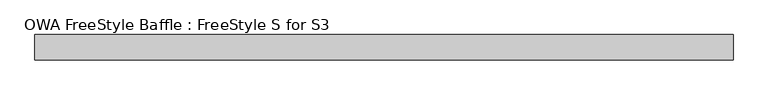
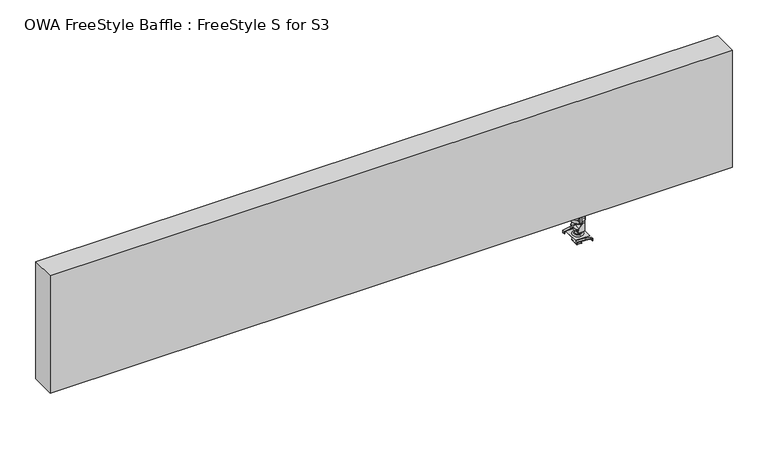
"""IFC4 building model written with IfcOpenShell, lengths in millimetres: proxy geometry, OWA FreeStyle Baffle : FreeStyle S for S3."""

from ifc_helpers import new_model, si_unit, point, frame, frame_2d, origin, place, context, project, spatial, polyline, circle_curve, trimmed, segment, composite_curve, outline, extrude, source, transform, mapped, element, save
from ifc_brep_helpers import plane_surface, cylinder_surface, revolved_surface, advanced_brep


def owa_freestyle_baffle_freestyle_s_for_s3_476cd958(model_context):
    return source(origin(), model_context, "Body", "SolidModel", [
        advanced_brep(
        [(-121.0, 8.4415003, 1.5898642), (-121.0, -8.4415003, 1.5898642), (-121.0, 0.0, 1.5898642), (-121.0, 6.3209107, 2.7955065), (-121.0, -6.3209107, 2.7955065), (-121.0, 4.2468376, 2.7955065), (-121.0, -4.2468376, 2.7955065), (-121.0, 4.2468376, 7.2398642), (-121.0, -4.2468376, 7.2398642), (-121.0, 5.0073658, 8.5775481), (-121.0, -5.0073658, 8.5775481), (-121.0, 5.0073658, 9.7898642), (-121.0, -5.0073658, 9.7898642), (-121.0, 6.1718376, 12.0898642), (-121.0, -6.1718376, 12.0898642), (-121.0, -6.1718376, 10.5898642), (-116.231961, -3.9188497, 10.5898642), (-116.231961, -3.9188497, 9.7898642), (-116.231961, 3.9188497, 9.7898642), (-116.231961, 3.9188497, 10.5898642), (-121.0, 6.1718376, 10.5898642), (-125.9436106, 3.6949009, 10.5898642), (-125.9436106, 3.6949009, 9.7898642), (-125.9436106, -3.6949009, 9.7898642), (-125.9436106, -3.6949009, 10.5898642), (-121.0, 0.0, 12.0898642), (-115.5, -10.0577889, 28.4358156), (-118.4062575, -10.0577889, 33.2858156), (-123.5, -10.0577889, 33.2858156), (-123.5, -10.0577889, 27.4015303), (-123.5, -10.0577889, 31.007432), (-118.5, -10.0577889, 31.007432), (-118.5, -10.0577889, 23.6176887), (-119.22243, -10.0577889, 21.8597795), (-123.4531897, -10.0577889, 17.5817021), (-126.4322178, -10.0577889, 13.1149322), (-125.9436106, -10.0577889, 10.5898642), (-125.9436106, -10.0577889, 9.7898642), (-116.231961, -10.0577889, 9.7898642), (-116.231961, -10.0577889, 10.5898642), (-115.5, -10.0577889, 13.1149322), (-115.5, -9.2577889, 28.4358156), (-115.5, -9.2577889, 13.1149322), (-116.231961, -9.2577889, 10.5898642), (-125.9436106, -9.2577889, 10.5898642), (-126.4322178, -9.2577889, 13.1149322), (-123.4531897, -9.2577889, 17.5817021), (-119.22243, -9.2577889, 21.8597795), (-118.5, -9.2577889, 23.6176887), (-118.5, -9.2577889, 31.007432), (-123.5, -9.2577889, 31.007432), (-123.5, -9.2577889, 27.4015303), (-123.5, -9.2577889, 33.2858156), (-118.4062575, -9.2577889, 33.2858156), (-116.231961, 9.2577889, 10.5898642), (-125.9436106, 9.2577889, 10.5898642), (-125.9436106, 10.0577889, 9.7898642), (-116.231961, 10.0577889, 9.7898642), (-125.9436106, 10.0577889, 10.5898642), (-126.4322178, 10.0577889, 13.1149322), (-123.4531897, 10.0577889, 17.5817021), (-119.22243, 10.0577889, 21.8597795), (-118.5, 10.0577889, 23.6176887), (-118.5, 10.0577889, 31.007432), (-123.5, 10.0577889, 31.007432), (-123.5, 10.0577889, 27.4015303), (-123.5, 10.0577889, 33.2858156), (-118.4062575, 10.0577889, 33.2858156), (-115.5, 10.0577889, 28.4358156), (-115.5, 10.0577889, 13.1149322), (-116.231961, 10.0577889, 10.5898642), (-115.5, 9.2577889, 28.4358156), (-118.4062575, 9.2577889, 33.2858156), (-123.5, 9.2577889, 33.2858156), (-123.5, 9.2577889, 27.4015303), (-123.5, 9.2577889, 31.007432), (-118.5, 9.2577889, 31.007432), (-118.5, 9.2577889, 23.6176887), (-119.22243, 9.2577889, 21.8597795), (-123.4531897, 9.2577889, 17.5817021), (-126.4322178, 9.2577889, 13.1149322), (-115.5, 9.2577889, 13.1149322)],
        [
            (0, 1, circle_curve(frame((-121.0, 0.0, 1.5898642), z_axis=(0.0, 0.0, -1.0), x_axis=(0.0, -1.0, 0.0)), 8.4415003)),
            (1, 2),
            (2, 0),
            (1, 0, circle_curve(frame((-121.0, 0.0, 1.5898642), z_axis=(0.0, 0.0, -1.0), x_axis=(0.0, -1.0, 0.0)), 8.4415003)),
            (0, 3),
            (3, 4, circle_curve(frame((-121.0, 0.0, 2.7955065), z_axis=(0.0, 0.0, -1.0), x_axis=(0.0, -1.0, 0.0)), 6.3209107)),
            (4, 1),
            (4, 3, circle_curve(frame((-121.0, 0.0, 2.7955065), z_axis=(0.0, 0.0, -1.0), x_axis=(0.0, -1.0, 0.0)), 6.3209107)),
            (3, 5),
            (5, 6, circle_curve(frame((-121.0, 0.0, 2.7955065), z_axis=(0.0, 0.0, -1.0), x_axis=(0.0, -1.0, 0.0)), 4.2468376)),
            (6, 4),
            (6, 5, circle_curve(frame((-121.0, 0.0, 2.7955065), z_axis=(0.0, 0.0, -1.0), x_axis=(0.0, -1.0, 0.0)), 4.2468376)),
            (5, 7),
            (7, 8, circle_curve(frame((-121.0, 0.0, 7.2398642), z_axis=(0.0, 0.0, -1.0), x_axis=(0.0, -1.0, 0.0)), 4.2468376)),
            (8, 6),
            (8, 7, circle_curve(frame((-121.0, 0.0, 7.2398642), z_axis=(0.0, 0.0, -1.0), x_axis=(0.0, -1.0, 0.0)), 4.2468376)),
            (7, 9),
            (9, 10, circle_curve(frame((-121.0, 0.0, 8.5775481), z_axis=(0.0, 0.0, -1.0), x_axis=(0.0, -1.0, 0.0)), 5.0073658)),
            (10, 8),
            (10, 9, circle_curve(frame((-121.0, 0.0, 8.5775481), z_axis=(0.0, 0.0, -1.0), x_axis=(0.0, -1.0, 0.0)), 5.0073658)),
            (9, 11),
            (11, 12, circle_curve(frame((-121.0, 0.0, 9.7898642), z_axis=(0.0, 0.0, -1.0), x_axis=(0.0, -1.0, 0.0)), 5.0073658)),
            (12, 10),
            (12, 11, circle_curve(frame((-121.0, 0.0, 9.7898642), z_axis=(0.0, 0.0, -1.0), x_axis=(0.0, -1.0, 0.0)), 5.0073658)),
            (13, 14, circle_curve(frame((-121.0, 0.0, 12.0898642), z_axis=(0.0, 0.0, -1.0), x_axis=(0.0, -1.0, 0.0)), 6.1718376)),
            (14, 15),
            (15, 16, circle_curve(frame((-121.0, 0.0, 10.5898642), z_axis=(0.0, 0.0, 1.0), x_axis=(0.0, -1.0, 0.0)), 6.1718376)),
            (16, 17),
            (17, 18, circle_curve(frame((-121.0, 0.0, 9.7898642), z_axis=(0.0, 0.0, 1.0), x_axis=(0.0, -1.0, 0.0)), 6.1718376)),
            (18, 19),
            (19, 20, circle_curve(frame((-121.0, 0.0, 10.5898642), z_axis=(0.0, 0.0, 1.0), x_axis=(0.0, -1.0, 0.0)), 6.1718376)),
            (20, 13),
            (14, 13, circle_curve(frame((-121.0, 0.0, 12.0898642), z_axis=(0.0, 0.0, -1.0), x_axis=(0.0, -1.0, 0.0)), 6.1718376)),
            (20, 21, circle_curve(frame((-121.0, 0.0, 10.5898642), z_axis=(0.0, 0.0, 1.0), x_axis=(0.0, -1.0, 0.0)), 6.1718376)),
            (21, 22),
            (22, 23, circle_curve(frame((-121.0, 0.0, 9.7898642), z_axis=(0.0, 0.0, 1.0), x_axis=(0.0, -1.0, 0.0)), 6.1718376)),
            (23, 24),
            (24, 15, circle_curve(frame((-121.0, 0.0, 10.5898642), z_axis=(0.0, 0.0, 1.0), x_axis=(0.0, -1.0, 0.0)), 6.1718376)),
            (13, 25),
            (25, 14),
            (26, 27, circle_curve(frame((-121.0, -10.0577889, 28.4358156), z_axis=(0.0, -1.0, 0.0), x_axis=(0.0, 0.0, 1.0)), 5.5)),
            (27, 28),
            (28, 29, circle_curve(frame((-122.4794267, -10.0577889, 30.343673), z_axis=(0.0, -1.0, 0.0), x_axis=(0.0, 0.0, 1.0)), 3.1141248)),
            (29, 30),
            (30, 31),
            (31, 32),
            (32, 33, circle_curve(frame((-121.0, -10.0577889, 23.6176887), z_axis=(0.0, 1.0, 0.0), x_axis=(0.0, 0.0, 1.0)), 2.5)),
            (33, 34),
            (34, 35, circle_curve(frame((-113.4323663, -10.0577889, 7.6717141), z_axis=(0.0, -1.0, 0.0), x_axis=(0.0, 0.0, 1.0)), 14.0934298)),
            (35, 36, circle_curve(frame((-124.2927664, -10.0577889, 12.2191142), z_axis=(0.0, -1.0, 0.0), x_axis=(0.0, 0.0, 1.0)), 2.3194271)),
            (36, 37),
            (37, 38),
            (38, 39),
            (39, 40, circle_curve(frame((-120.221382, -10.0577889, 13.1149322), z_axis=(0.0, -1.0, 0.0), x_axis=(0.0, 0.0, 1.0)), 4.721382)),
            (40, 26),
            (41, 42),
            (42, 43, circle_curve(frame((-120.221382, -9.2577889, 13.1149322), z_axis=(0.0, 1.0, 0.0), x_axis=(0.0, 0.0, 1.0)), 4.721382)),
            (43, 44),
            (44, 45, circle_curve(frame((-124.2927664, -9.2577889, 12.2191142), z_axis=(0.0, 1.0, 0.0), x_axis=(0.0, 0.0, 1.0)), 2.3194271)),
            (45, 46, circle_curve(frame((-113.4323663, -9.2577889, 7.6717141), z_axis=(0.0, 1.0, 0.0), x_axis=(0.0, 0.0, 1.0)), 14.0934298)),
            (46, 47),
            (47, 48, circle_curve(frame((-121.0, -9.2577889, 23.6176887), z_axis=(0.0, -1.0, 0.0), x_axis=(0.0, 0.0, 1.0)), 2.5)),
            (48, 49),
            (49, 50),
            (50, 51),
            (51, 52, circle_curve(frame((-122.4794267, -9.2577889, 30.343673), z_axis=(0.0, 1.0, 0.0), x_axis=(0.0, 0.0, 1.0)), 3.1141248)),
            (52, 53),
            (53, 41, circle_curve(frame((-121.0, -9.2577889, 28.4358156), z_axis=(0.0, 1.0, 0.0), x_axis=(0.0, 0.0, 1.0)), 5.5)),
            (26, 41),
            (53, 27),
            (52, 28),
            (51, 29),
            (50, 30),
            (49, 31),
            (33, 47),
            (46, 34),
            (45, 35),
            (44, 36),
            (39, 43),
            (42, 40),
            (32, 48),
            (43, 16),
            (24, 44),
            (54, 55),
            (55, 21),
            (19, 54),
            (56, 57),
            (57, 18),
            (17, 38),
            (37, 23),
            (22, 56),
            (58, 56),
            (55, 58),
            (58, 59, circle_curve(frame((-124.2927664, 10.0577889, 12.2191142), z_axis=(0.0, 1.0, 0.0), x_axis=(0.0, 0.0, 1.0)), 2.3194271)),
            (59, 60, circle_curve(frame((-113.4323663, 10.0577889, 7.6717141), z_axis=(0.0, 1.0, 0.0), x_axis=(0.0, 0.0, 1.0)), 14.0934298)),
            (60, 61),
            (61, 62, circle_curve(frame((-121.0, 10.0577889, 23.6176887), z_axis=(0.0, -1.0, 0.0), x_axis=(0.0, 0.0, 1.0)), 2.5)),
            (62, 63),
            (63, 64),
            (64, 65),
            (65, 66, circle_curve(frame((-122.4794267, 10.0577889, 30.343673), z_axis=(0.0, 1.0, 0.0), x_axis=(0.0, 0.0, 1.0)), 3.1141248)),
            (66, 67),
            (67, 68, circle_curve(frame((-121.0, 10.0577889, 28.4358156), z_axis=(0.0, 1.0, 0.0), x_axis=(0.0, 0.0, 1.0)), 5.5)),
            (68, 69),
            (69, 70, circle_curve(frame((-120.221382, 10.0577889, 13.1149322), z_axis=(0.0, 1.0, 0.0), x_axis=(0.0, 0.0, 1.0)), 4.721382)),
            (70, 57),
            (70, 54),
            (71, 72, circle_curve(frame((-121.0, 9.2577889, 28.4358156), z_axis=(0.0, -1.0, 0.0), x_axis=(0.0, 0.0, 1.0)), 5.5)),
            (72, 73),
            (73, 74, circle_curve(frame((-122.4794267, 9.2577889, 30.343673), z_axis=(0.0, -1.0, 0.0), x_axis=(0.0, 0.0, 1.0)), 3.1141248)),
            (74, 75),
            (75, 76),
            (76, 77),
            (77, 78, circle_curve(frame((-121.0, 9.2577889, 23.6176887), z_axis=(0.0, 1.0, 0.0), x_axis=(0.0, 0.0, 1.0)), 2.5)),
            (78, 79),
            (79, 80, circle_curve(frame((-113.4323663, 9.2577889, 7.6717141), z_axis=(0.0, -1.0, 0.0), x_axis=(0.0, 0.0, 1.0)), 14.0934298)),
            (80, 55, circle_curve(frame((-124.2927664, 9.2577889, 12.2191142), z_axis=(0.0, -1.0, 0.0), x_axis=(0.0, 0.0, 1.0)), 2.3194271)),
            (54, 81, circle_curve(frame((-120.221382, 9.2577889, 13.1149322), z_axis=(0.0, -1.0, 0.0), x_axis=(0.0, 0.0, 1.0)), 4.721382)),
            (81, 71),
            (67, 72),
            (71, 68),
            (66, 73),
            (65, 74),
            (64, 75),
            (63, 76),
            (60, 79),
            (78, 61),
            (59, 80),
            (69, 81),
            (77, 62),
        ],
        [
            plane_surface(frame((-121.0, 0.0, 1.5898642), z_axis=(0.0, 0.0, -1.0), x_axis=(0.0, -1.0, 0.0))),
            revolved_surface(polyline([(-121.0, -8.4415003, 1.5898642), (-121.0, -6.3209107, 2.7955065)]), (-121.0, 0.0, -2.0962775), (0.0, 0.0, 1.0)),
            plane_surface(frame((-121.0, 0.0, 2.7955065), z_axis=(0.0, 0.0, 1.0), x_axis=(0.0, -1.0, 0.0))),
            cylinder_surface(frame((-121.0, 0.0, -2.0962775), z_axis=(0.0, 0.0, 1.0), x_axis=(0.0, -1.0, 0.0)), 4.2468376),
            revolved_surface(polyline([(-121.0, -4.2468376, 7.2398642), (-121.0, -5.0073658, 8.5775481)]), (-121.0, 0.0, -2.0962775), (0.0, 0.0, 1.0)),
            cylinder_surface(frame((-121.0, 0.0, -2.0962775), z_axis=(0.0, 0.0, 1.0), x_axis=(0.0, -1.0, 0.0)), 5.0073658),
            cylinder_surface(frame((-121.0, 0.0, -2.0962775), z_axis=(0.0, 0.0, 1.0), x_axis=(0.0, -1.0, 0.0)), 6.1718376),
            plane_surface(frame((-121.0, 0.0, 12.0898642), z_axis=(0.0, 0.0, 1.0), x_axis=(0.0, -1.0, 0.0))),
            plane_surface(frame((-115.5, -10.0577889, 13.1149322), z_axis=(0.0, -1.0, 0.0), x_axis=(0.0, 0.0, 1.0))),
            plane_surface(frame((-115.5, -9.2577889, 13.1149322), z_axis=(0.0, 1.0, 0.0), x_axis=(0.0, 0.0, -1.0))),
            cylinder_surface(frame((-121.0, -10.0577889, 28.4358156), z_axis=(0.0, 1.0, 0.0), x_axis=(0.0, 0.0, 1.0)), 5.5),
            plane_surface(frame((-123.5, -9.2577889, 33.2858156), z_axis=(0.0, 0.0, 1.0), x_axis=(0.0, -1.0, 0.0))),
            cylinder_surface(frame((-122.4794267, -10.0577889, 30.343673), z_axis=(0.0, 1.0, 0.0), x_axis=(0.0, 0.0, 1.0)), 3.1141248),
            plane_surface(frame((-123.5, -9.2577889, 31.007432), z_axis=(1.0, 0.0, 0.0), x_axis=(0.0, -1.0, 0.0))),
            plane_surface(frame((-118.5, -9.2577889, 31.007432), z_axis=(0.0, 0.0, -1.0), x_axis=(0.0, -1.0, 0.0))),
            plane_surface(frame((-123.4531897, -9.2577889, 17.5817021), z_axis=(-0.7110280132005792, 0.0, 0.7031636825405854), x_axis=(0.0, -1.0, 0.0))),
            cylinder_surface(frame((-113.4323663, -10.0577889, 7.6717141), z_axis=(0.0, 1.0, 0.0), x_axis=(0.0, 0.0, 1.0)), 14.0934298),
            cylinder_surface(frame((-124.2927664, -10.0577889, 12.2191142), z_axis=(0.0, 1.0, 0.0), x_axis=(0.0, 0.0, 1.0)), 2.3194271),
            cylinder_surface(frame((-120.221382, -10.0577889, 13.1149322), z_axis=(0.0, 1.0, 0.0), x_axis=(0.0, 0.0, 1.0)), 4.721382),
            plane_surface(frame((-115.5, -9.2577889, 28.4358156), z_axis=(1.0, 0.0, 0.0), x_axis=(0.0, -1.0, 0.0))),
            revolved_surface(polyline([(-121.0, -10.0577889, 26.1176887), (-121.0, -9.2577889, 26.1176887)]), (-121.0, -10.0577889, 23.6176887), (0.0, -1.0, 0.0)),
            plane_surface(frame((-118.5, -9.2577889, 23.6176887), z_axis=(-1.0, 0.0, 0.0), x_axis=(0.0, -1.0, 0.0))),
            plane_surface(frame((-125.9436106, -9.2577889, 10.5898642), z_axis=(0.0, 0.0, 1.0), x_axis=(0.0, -1.0, 0.0))),
            plane_surface(frame((-125.9436106, -9.2577889, 9.7898642), z_axis=(0.0, 0.0, -1.0), x_axis=(0.0, 1.0, 0.0))),
            plane_surface(frame((-125.9436106, -10.0577889, 9.7898642), z_axis=(-1.0, 0.0, 0.0), x_axis=(0.0, 0.0, 1.0))),
            plane_surface(frame((-125.9436106, 10.0577889, 9.7898642), z_axis=(0.0, 1.0, 0.0), x_axis=(0.0, 0.0, 1.0))),
            plane_surface(frame((-116.231961, 10.0577889, 9.7898642), z_axis=(1.0, 0.0, 0.0), x_axis=(0.0, 0.0, 1.0))),
            plane_surface(frame((-121.0, 9.2577889, 33.9358156), z_axis=(0.0, -1.0, 0.0), x_axis=(-1.0, 0.0, 0.0))),
            cylinder_surface(frame((-121.0, 10.0577889, 28.4358156), z_axis=(0.0, -1.0, 0.0), x_axis=(0.0, 0.0, 1.0)), 5.5),
            plane_surface(frame((-118.4062575, 9.2577889, 33.2858156), z_axis=(0.0, 0.0, 1.0), x_axis=(0.0, 1.0, 0.0))),
            cylinder_surface(frame((-122.4794267, 10.0577889, 30.343673), z_axis=(0.0, -1.0, 0.0), x_axis=(0.0, 0.0, 1.0)), 3.1141248),
            plane_surface(frame((-123.5, 9.2577889, 27.4015303), z_axis=(1.0, 0.0, 0.0), x_axis=(0.0, 1.0, 0.0))),
            plane_surface(frame((-123.5, 9.2577889, 31.007432), z_axis=(0.0, 0.0, -1.0), x_axis=(0.0, 1.0, 0.0))),
            plane_surface(frame((-119.22243, 9.2577889, 21.8597795), z_axis=(-0.7110280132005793, 0.0, 0.7031636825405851), x_axis=(0.0, 1.0, 0.0))),
            cylinder_surface(frame((-113.4323663, 10.0577889, 7.6717141), z_axis=(0.0, -1.0, 0.0), x_axis=(0.0, 0.0, 1.0)), 14.0934298),
            cylinder_surface(frame((-124.2927664, 10.0577889, 12.2191142), z_axis=(0.0, -1.0, 0.0), x_axis=(0.0, 0.0, 1.0)), 2.3194271),
            cylinder_surface(frame((-120.221382, 10.0577889, 13.1149322), z_axis=(0.0, -1.0, 0.0), x_axis=(0.0, 0.0, 1.0)), 4.721382),
            plane_surface(frame((-115.5, 9.2577889, 13.1149322), z_axis=(1.0, 0.0, 0.0), x_axis=(0.0, 1.0, 0.0))),
            revolved_surface(polyline([(-121.0, 10.0577889, 26.1176887), (-121.0, 9.2577889, 26.1176887)]), (-121.0, 10.0577889, 23.6176887), (0.0, 1.0, 0.0)),
            plane_surface(frame((-118.5, 9.2577889, 31.007432), z_axis=(-1.0, 0.0, 0.0), x_axis=(0.0, 1.0, 0.0))),
        ],
        [
            (0, [[1, 2, 3]]),
            (0, [[-2, 4, -3]]),
            (1, [[-1, 5, 6, 7]]),
            (1, [[-4, -7, 8, -5]]),
            (2, [[-6, 9, 10, 11]]),
            (2, [[-8, -11, 12, -9]]),
            (3, [[-10, 13, 14, 15]]),
            (3, [[-12, -15, 16, -13]]),
            (4, [[-14, 17, 18, 19]]),
            (4, [[-16, -19, 20, -17]]),
            (5, [[-18, 21, 22, 23]]),
            (5, [[-20, -23, 24, -21]]),
            (6, [[25, 26, 27, 28, 29, 30, 31, 32]]),
            (6, [[33, -32, 34, 35, 36, 37, 38, -26]]),
            (7, [[-25, 39, 40]]),
            (7, [[-33, -40, -39]]),
            (8, [[41, 42, 43, 44, 45, 46, 47, 48, 49, 50, 51, 52, 53, 54, 55]]),
            (9, [[56, 57, 58, 59, 60, 61, 62, 63, 64, 65, 66, 67, 68]]),
            (10, [[-41, 69, -68, 70]]),
            (11, [[-42, -70, -67, 71]]),
            (12, [[-43, -71, -66, 72]]),
            (13, [[-44, -72, -65, 73]]),
            (14, [[-45, -73, -64, 74]]),
            (15, [[-48, 75, -61, 76]]),
            (16, [[-49, -76, -60, 77]]),
            (17, [[-50, -77, -59, 78]]),
            (18, [[-54, 79, -57, 80]]),
            (19, [[-55, -80, -56, -69]]),
            (20, [[-47, 81, -62, -75]]),
            (21, [[-46, -74, -63, -81]]),
            (22, [[-58, 82, -27, -38, 83]]),
            (22, [[84, 85, -34, -31, 86]]),
            (23, [[87, 88, -29, 89, -52, 90, -36, 91], [-24, -22]]),
            (24, [[-51, -78, -83, -37, -90]]),
            (24, [[92, -91, -35, -85, 93]]),
            (25, [[-87, -92, 94, 95, 96, 97, 98, 99, 100, 101, 102, 103, 104, 105, 106]]),
            (26, [[-53, -89, -28, -82, -79]]),
            (26, [[-106, 107, -86, -30, -88]]),
            (27, [[108, 109, 110, 111, 112, 113, 114, 115, 116, 117, -84, 118, 119]]),
            (28, [[-103, 120, -108, 121]]),
            (29, [[-102, 122, -109, -120]]),
            (30, [[-101, 123, -110, -122]]),
            (31, [[-100, 124, -111, -123]]),
            (32, [[-99, 125, -112, -124]]),
            (33, [[-96, 126, -115, 127]]),
            (34, [[-95, 128, -116, -126]]),
            (35, [[-94, -93, -117, -128]]),
            (36, [[-105, 129, -118, -107]]),
            (37, [[-104, -121, -119, -129]]),
            (38, [[-97, -127, -114, 130]]),
            (39, [[-98, -130, -113, -125]]),
        ],
    ),
        advanced_brep(
        [(-125.5504372, -6.4495628, -1.2101358), (-125.5504372, -6.4495628, -2.0101358), (-132.5504372, -6.4495628, -2.0101358), (-132.5504372, -6.4495628, 1.5898642), (-132.5504372, -6.4495628, 0.7898642), (-132.5504372, -6.4495628, -1.2101358), (-132.5504372, -14.9495628, -1.2101358), (-132.5504372, -18.9495628, -1.2101358), (-125.5504372, -18.9495628, -1.2101358), (-132.5504372, -12.9495628, 0.7898642), (-132.5504372, -14.9495628, 0.7898642), (-132.5504372, -14.9495628, -2.0101358), (-132.5504372, -14.9495628, 1.5898642), (-132.5504372, -12.9495628, 1.5898642), (-125.5504372, -18.9495628, -2.0101358), (-132.5504372, -18.9495628, -2.0101358), (-109.5504372, -12.9495628, 1.5898642), (-109.5504372, 6.4495628, 1.5898642), (-109.5504372, 13.0504372, 1.5898642), (-132.5504372, 13.0504372, 1.5898642), (-132.5504372, 13.0504372, 0.7898642), (-109.5504372, 13.0504372, 0.7898642), (-109.5504372, 6.4495628, 0.7898642), (-109.5504372, -12.9495628, 0.7898642), (-132.5504372, -18.9495628, 0.7898642), (-118.9412497, -18.9495628, 0.7898642), (-108.5499325, -18.9495628, -1.0424054), (-108.5499325, -18.9495628, -4.0091992), (-107.7499325, -18.9495628, -4.0091992), (-107.7499325, -18.9495628, -0.3711257), (-118.8712588, -18.9495628, 1.5898642), (-132.5504372, -18.9495628, 1.5898642), (-118.8712588, -14.9495628, 1.5898642), (-107.7499325, -14.9495628, -0.3711257), (-107.7499325, -14.9495628, -4.0091992), (-108.5499325, -14.9495628, -4.0091992), (-108.5499325, -14.9495628, -1.0424054), (-118.9412497, -14.9495628, 0.7898642), (-116.5504372, 6.4495628, -1.2101358), (-116.5504372, 6.4495628, -2.0101358), (-109.5504372, 6.4495628, -2.0101358), (-109.5504372, 6.4495628, -1.2101358), (-109.5504372, 14.9495628, -1.2101358), (-109.5504372, 18.9495628, -1.2101358), (-116.5504372, 18.9495628, -1.2101358), (-109.5504372, 14.9495628, 0.7898642), (-109.5504372, 14.9495628, -2.0101358), (-109.5504372, 14.9495628, 1.5898642), (-116.5504372, 18.9495628, -2.0101358), (-109.5504372, 18.9495628, -2.0101358), (-109.5504372, 18.9495628, 0.7898642), (-123.1596246, 18.9495628, 0.7898642), (-133.5509418, 18.9495628, -1.0424054), (-133.5509418, 18.9495628, -4.0091992), (-134.3509418, 18.9495628, -4.0091992), (-134.3509418, 18.9495628, -0.3711257), (-123.2296155, 18.9495628, 1.5898642), (-109.5504372, 18.9495628, 1.5898642), (-123.2296155, 14.9495628, 1.5898642), (-134.3509418, 14.9495628, -0.3711257), (-134.3509418, 14.9495628, -4.0091992), (-133.5509418, 14.9495628, -4.0091992), (-133.5509418, 14.9495628, -1.0424054), (-123.1596246, 14.9495628, 0.7898642)],
        [
            (0, 1),
            (1, 2),
            (2, 3, circle_curve(frame((-132.5504372, -6.4495628, -0.2101358), z_axis=(0.0, 1.0, 0.0), x_axis=(1.0, 0.0, 0.0)), 1.8)),
            (3, 4),
            (4, 5, circle_curve(frame((-132.5504372, -6.4495628, -0.2101358), z_axis=(0.0, -1.0, 0.0), x_axis=(1.0, 0.0, 0.0)), 1.0)),
            (5, 0),
            (5, 6),
            (6, 7),
            (7, 8),
            (8, 0),
            (4, 9),
            (9, 10),
            (10, 6, circle_curve(frame((-132.5504372, -14.9495628, -0.2101358), z_axis=(0.0, -1.0, 0.0), x_axis=(1.0, 0.0, 0.0)), 1.0)),
            (2, 11),
            (11, 12, circle_curve(frame((-132.5504372, -14.9495628, -0.2101358), z_axis=(0.0, 1.0, 0.0), x_axis=(1.0, 0.0, 0.0)), 1.8)),
            (12, 13),
            (13, 3),
            (1, 14),
            (14, 15),
            (15, 11),
            (8, 14),
            (12, 10),
            (9, 13),
            (13, 16),
            (16, 17),
            (17, 18),
            (18, 19),
            (19, 3),
            (20, 21),
            (21, 22),
            (22, 23),
            (23, 9),
            (4, 20),
            (18, 21),
            (20, 19),
            (16, 23),
            (22, 17),
            (7, 24, circle_curve(frame((-132.5504372, -18.9495628, -0.2101358), z_axis=(0.0, 1.0, 0.0), x_axis=(1.0, 0.0, 0.0)), 1.0)),
            (24, 25),
            (25, 26),
            (26, 27),
            (27, 28),
            (28, 29),
            (29, 30),
            (30, 31),
            (31, 15, circle_curve(frame((-132.5504372, -18.9495628, -0.2101358), z_axis=(0.0, -1.0, 0.0), x_axis=(1.0, 0.0, 0.0)), 1.8)),
            (12, 32),
            (32, 33),
            (33, 34),
            (34, 35),
            (35, 36),
            (36, 37),
            (37, 10),
            (10, 24),
            (37, 25),
            (30, 32),
            (12, 31),
            (36, 26),
            (35, 27),
            (34, 28),
            (33, 29),
            (38, 39),
            (39, 40),
            (40, 17, circle_curve(frame((-109.5504372, 6.4495628, -0.2101358), z_axis=(0.0, -1.0, 0.0), x_axis=(-1.0, 0.0, 0.0)), 1.8)),
            (22, 41, circle_curve(frame((-109.5504372, 6.4495628, -0.2101358), z_axis=(0.0, 1.0, 0.0), x_axis=(-1.0, 0.0, 0.0)), 1.0)),
            (41, 38),
            (41, 42),
            (42, 43),
            (43, 44),
            (44, 38),
            (21, 45),
            (45, 42, circle_curve(frame((-109.5504372, 14.9495628, -0.2101358), z_axis=(0.0, 1.0, 0.0), x_axis=(-1.0, 0.0, 0.0)), 1.0)),
            (40, 46),
            (46, 47, circle_curve(frame((-109.5504372, 14.9495628, -0.2101358), z_axis=(0.0, -1.0, 0.0), x_axis=(-1.0, 0.0, 0.0)), 1.8)),
            (47, 18),
            (39, 48),
            (48, 49),
            (49, 46),
            (44, 48),
            (47, 45),
            (43, 50, circle_curve(frame((-109.5504372, 18.9495628, -0.2101358), z_axis=(0.0, -1.0, 0.0), x_axis=(-1.0, 0.0, 0.0)), 1.0)),
            (50, 51),
            (51, 52),
            (52, 53),
            (53, 54),
            (54, 55),
            (55, 56),
            (56, 57),
            (57, 49, circle_curve(frame((-109.5504372, 18.9495628, -0.2101358), z_axis=(0.0, 1.0, 0.0), x_axis=(-1.0, 0.0, 0.0)), 1.8)),
            (47, 58),
            (58, 59),
            (59, 60),
            (60, 61),
            (61, 62),
            (62, 63),
            (63, 45),
            (45, 50),
            (63, 51),
            (56, 58),
            (47, 57),
            (62, 52),
            (61, 53),
            (60, 54),
            (59, 55),
        ],
        [
            plane_surface(frame((-132.5504372, -6.4495628, -1.2101358), z_axis=(0.0, 1.0, 0.0), x_axis=(1.0, 0.0, 0.0))),
            plane_surface(frame((-125.5504372, -14.9495628, -1.2101358), z_axis=(0.0, 0.0, 1.0), x_axis=(0.0, 1.0, 0.0))),
            revolved_surface(polyline([(-131.5504372, -6.4495628, -0.2101358), (-131.5504372, -14.949562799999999, -0.2101358)]), (-132.5504372, -6.4495628, -0.2101358), (0.0, 1.0, 0.0)),
            cylinder_surface(frame((-132.5504372, -6.4495628, -0.2101358), z_axis=(0.0, -1.0, 0.0), x_axis=(1.0, 0.0, 0.0)), 1.8),
            plane_surface(frame((-132.5504372, -14.9495628, -2.0101358), z_axis=(0.0, 0.0, -1.0), x_axis=(0.0, 1.0, 0.0))),
            plane_surface(frame((-125.5504372, -14.9495628, -2.0101358), z_axis=(1.0, 0.0, 0.0), x_axis=(0.0, 1.0, 0.0))),
            plane_surface(frame((-132.5504372, -14.9495628, 0.7898642), z_axis=(1.0, 0.0, 0.0), x_axis=(0.0, 1.0, 0.0))),
            plane_surface(frame((-112.0504372, 13.0504372, 1.5898642), z_axis=(0.0, 0.0, 1.0), x_axis=(-1.0, 0.0, 0.0))),
            plane_surface(frame((-112.0504372, 13.0504372, 0.7898642), z_axis=(0.0, 0.0, -1.0), x_axis=(1.0, 0.0, 0.0))),
            plane_surface(frame((-132.5504372, 13.0504372, 0.7898642), z_axis=(0.0, 1.0, 0.0), x_axis=(0.0, 0.0, 1.0))),
            plane_surface(frame((-109.5504372, 13.0504372, 0.7898642), z_axis=(1.0, 0.0, 0.0), x_axis=(0.0, 0.0, 1.0))),
            plane_surface(frame((-109.5504372, -12.9495628, 0.7898642), z_axis=(0.0, -1.0, 0.0), x_axis=(0.0, 0.0, 1.0))),
            plane_surface(frame((-132.5504372, -12.9495628, 0.7898642), z_axis=(-1.0, 0.0, 0.0), x_axis=(0.0, 0.0, 1.0))),
            plane_surface(frame((-132.5504372, -18.9495628, -1.2101358), z_axis=(0.0, -1.0, 0.0), x_axis=(-1.0, 0.0, 0.0))),
            plane_surface(frame((-132.5504372, -14.9495628, -1.2101358), z_axis=(0.0, 1.0, 0.0), x_axis=(1.0, 0.0, 0.0))),
            revolved_surface(polyline([(-131.5504372, -14.9495628, -0.2101358), (-131.5504372, -18.9495628, -0.2101358)]), (-132.5504372, -14.9495628, -0.2101358), (0.0, 1.0, 0.0)),
            plane_surface(frame((-132.5504372, -18.9495628, 0.7898642), z_axis=(0.0, 0.0, -1.0), x_axis=(0.0, 1.0, 0.0))),
            plane_surface(frame((-118.8712588, -18.9495628, 1.5898642), z_axis=(0.0, 0.0, 1.0), x_axis=(0.0, 1.0, 0.0))),
            cylinder_surface(frame((-132.5504372, -14.9495628, -0.2101358), z_axis=(0.0, -1.0, 0.0), x_axis=(1.0, 0.0, 0.0)), 1.8),
            plane_surface(frame((-118.9412497, -18.9495628, 0.7898642), z_axis=(-0.17364817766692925, 0.0, -0.9848077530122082), x_axis=(0.0, 1.0, 0.0))),
            plane_surface(frame((-108.5499325, -18.9495628, -1.0424054), z_axis=(-1.0, 0.0, 0.0), x_axis=(0.0, 1.0, 0.0))),
            plane_surface(frame((-108.5499325, -18.9495628, -4.0091992), z_axis=(0.0, 0.0, -1.0), x_axis=(0.0, 1.0, 0.0))),
            plane_surface(frame((-107.7499325, -18.9495628, -4.0091992), z_axis=(1.0, 0.0, 0.0), x_axis=(0.0, 1.0, 0.0))),
            plane_surface(frame((-107.7499325, -18.9495628, -0.3711257), z_axis=(0.17364817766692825, 0.0, 0.9848077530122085), x_axis=(0.0, 1.0, 0.0))),
            plane_surface(frame((-109.5504372, 6.4495628, -1.2101358), z_axis=(0.0, -1.0, 0.0), x_axis=(-1.0, 0.0, 0.0))),
            plane_surface(frame((-116.5504372, 14.9495628, -1.2101358), z_axis=(0.0, 0.0, 1.0), x_axis=(0.0, -1.0, 0.0))),
            revolved_surface(polyline([(-110.5504372, 6.4495628, -0.2101358), (-110.5504372, 14.949562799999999, -0.2101358)]), (-109.5504372, 6.4495628, -0.2101358), (0.0, -1.0, 0.0)),
            cylinder_surface(frame((-109.5504372, 6.4495628, -0.2101358), z_axis=(0.0, 1.0, 0.0), x_axis=(-1.0, 0.0, 0.0)), 1.8),
            plane_surface(frame((-109.5504372, 14.9495628, -2.0101358), z_axis=(0.0, 0.0, -1.0), x_axis=(0.0, -1.0, 0.0))),
            plane_surface(frame((-116.5504372, 14.9495628, -2.0101358), z_axis=(-1.0, 0.0, 0.0), x_axis=(0.0, -1.0, 0.0))),
            plane_surface(frame((-109.5504372, 14.9495628, 0.7898642), z_axis=(-1.0, 0.0, 0.0), x_axis=(0.0, -1.0, 0.0))),
            plane_surface(frame((-109.5504372, 18.9495628, -1.2101358), z_axis=(0.0, 1.0, 0.0), x_axis=(1.0, 0.0, 0.0))),
            plane_surface(frame((-109.5504372, 14.9495628, -1.2101358), z_axis=(0.0, -1.0, 0.0), x_axis=(-1.0, 0.0, 0.0))),
            revolved_surface(polyline([(-110.5504372, 14.9495628, -0.2101358), (-110.5504372, 18.9495628, -0.2101358)]), (-109.5504372, 14.9495628, -0.2101358), (0.0, -1.0, 0.0)),
            plane_surface(frame((-109.5504372, 18.9495628, 0.7898642), z_axis=(0.0, 0.0, -1.0), x_axis=(0.0, -1.0, 0.0))),
            plane_surface(frame((-123.2296155, 18.9495628, 1.5898642), z_axis=(0.0, 0.0, 1.0), x_axis=(0.0, -1.0, 0.0))),
            cylinder_surface(frame((-109.5504372, 14.9495628, -0.2101358), z_axis=(0.0, 1.0, 0.0), x_axis=(-1.0, 0.0, 0.0)), 1.8),
            plane_surface(frame((-123.1596246, 18.9495628, 0.7898642), z_axis=(0.17364817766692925, 0.0, -0.9848077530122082), x_axis=(0.0, -1.0, 0.0))),
            plane_surface(frame((-133.5509418, 18.9495628, -1.0424054), z_axis=(1.0, 0.0, 0.0), x_axis=(0.0, -1.0, 0.0))),
            plane_surface(frame((-133.5509418, 18.9495628, -4.0091992), z_axis=(0.0, 0.0, -1.0), x_axis=(0.0, -1.0, 0.0))),
            plane_surface(frame((-134.3509418, 18.9495628, -4.0091992), z_axis=(-1.0, 0.0, 0.0), x_axis=(0.0, -1.0, 0.0))),
            plane_surface(frame((-134.3509418, 18.9495628, -0.3711257), z_axis=(-0.17364817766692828, 0.0, 0.9848077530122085), x_axis=(0.0, -1.0, 0.0))),
        ],
        [
            (0, [[1, 2, 3, 4, 5, 6]]),
            (1, [[-6, 7, 8, 9, 10]]),
            (2, [[-5, 11, 12, 13, -7]]),
            (3, [[-3, 14, 15, 16, 17]]),
            (4, [[-2, 18, 19, 20, -14]]),
            (5, [[-1, -10, 21, -18]]),
            (6, [[-16, 22, -12, 23]]),
            (7, [[24, 25, 26, 27, 28, -17]]),
            (8, [[29, 30, 31, 32, -11, 33]]),
            (9, [[-27, 34, -29, 35]]),
            (10, [[36, -31, 37, -25]]),
            (11, [[-24, -23, -32, -36]]),
            (12, [[-35, -33, -4, -28]]),
            (13, [[-9, 38, 39, 40, 41, 42, 43, 44, 45, 46, -19, -21]]),
            (14, [[47, 48, 49, 50, 51, 52, 53, -22]]),
            (15, [[-38, -8, -13, 54]]),
            (16, [[-39, -54, -53, 55]]),
            (17, [[-45, 56, -47, 57]]),
            (18, [[-46, -57, -15, -20]]),
            (19, [[-40, -55, -52, 58]]),
            (20, [[-41, -58, -51, 59]]),
            (21, [[-42, -59, -50, 60]]),
            (22, [[-43, -60, -49, 61]]),
            (23, [[-44, -61, -48, -56]]),
            (24, [[62, 63, 64, -37, 65, 66]]),
            (25, [[-66, 67, 68, 69, 70]]),
            (26, [[-65, -30, 71, 72, -67]]),
            (27, [[-64, 73, 74, 75, -26]]),
            (28, [[-63, 76, 77, 78, -73]]),
            (29, [[-76, -62, -70, 79]]),
            (30, [[-75, 80, -71, -34]]),
            (31, [[-69, 81, 82, 83, 84, 85, 86, 87, 88, 89, -77, -79]]),
            (32, [[90, 91, 92, 93, 94, 95, 96, -80]]),
            (33, [[-81, -68, -72, 97]]),
            (34, [[-82, -97, -96, 98]]),
            (35, [[-88, 99, -90, 100]]),
            (36, [[-89, -100, -74, -78]]),
            (37, [[-83, -98, -95, 101]]),
            (38, [[-84, -101, -94, 102]]),
            (39, [[-85, -102, -93, 103]]),
            (40, [[-86, -103, -92, 104]]),
            (41, [[-87, -104, -91, -99]]),
        ],
    ),
        extrude(outline(composite_curve([segment(trimmed(circle_curve(frame_2d((-121.0, 0.0)), 15.8660547), [point((-136.8660547, 0.0))], [point((-105.1339453, 0.0))], False, "CARTESIAN"), True, "CONTINUOUS"), segment(trimmed(circle_curve(frame_2d((-121.0, 0.0)), 15.8660547), [point((-105.1339453, 0.0))], [point((-136.8660547, 0.0))], False, "CARTESIAN"), True, "CONTINUOUS")], self_intersect=False)), frame((0.0, 0.0, 41.0), z_axis=(0.0, 0.0, 1.0), x_axis=(1.0, 0.0, 0.0)), (0.0, 0.0, 1.0), 2.0),
        advanced_brep(
        [(-131.1641138, 0.0, 31.007432), (-123.5, -9.8518633, 31.007432), (-123.5, -10.1641138, 31.007432), (-118.5, -10.1641138, 31.007432), (-118.5, -9.8518633, 31.007432), (-110.8358862, 0.0, 31.007432), (-118.5, 9.8518633, 31.007432), (-118.5, 10.1641138, 31.007432), (-123.5, 10.1641138, 31.007432), (-123.5, 9.8518633, 31.007432), (-126.2, 0.0, 31.007432), (-115.8, 0.0, 31.007432), (-131.1641138, 0.0, 25.2100562), (-123.5, 9.8518633, 25.2100562), (-123.5, 10.1641138, 25.2100562), (-118.5, 10.1641138, 25.2100562), (-118.5, 9.8518633, 25.2100562), (-110.8358862, 0.0, 25.2100562), (-118.5, -9.8518633, 25.2100562), (-118.5, -10.1641138, 25.2100562), (-123.5, -10.1641138, 25.2100562), (-123.5, -9.8518633, 25.2100562), (-126.2, 0.0, 25.2100562), (-115.8, 0.0, 25.2100562), (-123.5, -10.816302, 41.0), (-123.5, -10.816302, 32.5083498), (-123.5, -15.0031624, 30.8560732), (-123.5, -15.0031624, 41.0), (-123.5, 10.816302, 41.0), (-123.5, 15.0031624, 41.0), (-123.5, 15.0031624, 30.8560732), (-123.5, 10.816302, 32.5083498), (-118.5, -10.816302, 41.0), (-118.5, -15.0031624, 41.0), (-118.5, -15.0031624, 30.8560732), (-118.5, -10.816302, 32.5083498), (-118.5, 10.816302, 41.0), (-118.5, 10.816302, 32.5083498), (-118.5, 15.0031624, 30.8560732), (-118.5, 15.0031624, 41.0)],
        [
            (0, 1, circle_curve(frame((-121.0, 0.0, 31.007432), z_axis=(0.0, 0.0, 1.0), x_axis=(1.0, 0.0, 0.0)), 10.1641138)),
            (1, 2),
            (2, 3),
            (3, 4),
            (4, 5, circle_curve(frame((-121.0, 0.0, 31.007432), z_axis=(0.0, 0.0, 1.0), x_axis=(1.0, 0.0, 0.0)), 10.1641138)),
            (5, 6, circle_curve(frame((-121.0, 0.0, 31.007432), z_axis=(0.0, 0.0, 1.0), x_axis=(1.0, 0.0, 0.0)), 10.1641138)),
            (6, 7),
            (7, 8),
            (8, 9),
            (9, 0, circle_curve(frame((-121.0, 0.0, 31.007432), z_axis=(0.0, 0.0, 1.0), x_axis=(1.0, 0.0, 0.0)), 10.1641138)),
            (10, 11, circle_curve(frame((-121.0, 0.0, 31.007432), z_axis=(0.0, 0.0, -1.0), x_axis=(1.0, 0.0, 0.0)), 5.2)),
            (11, 10, circle_curve(frame((-121.0, 0.0, 31.007432), z_axis=(0.0, 0.0, -1.0), x_axis=(1.0, 0.0, 0.0)), 5.2)),
            (12, 13, circle_curve(frame((-121.0, 0.0, 25.2100562), z_axis=(0.0, 0.0, -1.0), x_axis=(1.0, 0.0, 0.0)), 10.1641138)),
            (13, 14),
            (14, 15),
            (15, 16),
            (16, 17, circle_curve(frame((-121.0, 0.0, 25.2100562), z_axis=(0.0, 0.0, -1.0), x_axis=(1.0, 0.0, 0.0)), 10.1641138)),
            (17, 18, circle_curve(frame((-121.0, 0.0, 25.2100562), z_axis=(0.0, 0.0, -1.0), x_axis=(1.0, 0.0, 0.0)), 10.1641138)),
            (18, 19),
            (19, 20),
            (20, 21),
            (21, 12, circle_curve(frame((-121.0, 0.0, 25.2100562), z_axis=(0.0, 0.0, -1.0), x_axis=(1.0, 0.0, 0.0)), 10.1641138)),
            (22, 23, circle_curve(frame((-121.0, 0.0, 25.2100562), z_axis=(0.0, 0.0, 1.0), x_axis=(1.0, 0.0, 0.0)), 5.2)),
            (23, 22, circle_curve(frame((-121.0, 0.0, 25.2100562), z_axis=(0.0, 0.0, 1.0), x_axis=(1.0, 0.0, 0.0)), 5.2)),
            (0, 12),
            (21, 1),
            (17, 5),
            (4, 18),
            (9, 13),
            (16, 6),
            (10, 22),
            (23, 11),
            (24, 25),
            (25, 2, circle_curve(frame((-123.5, -8.7631339, 32.5083498), z_axis=(1.0, 0.0, 0.0), x_axis=(0.0, 1.0, 0.0)), 2.0531681)),
            (20, 26, circle_curve(frame((-123.5, -9.2898597, 30.8560732), z_axis=(-1.0, 0.0, 0.0), x_axis=(0.0, 1.0, 0.0)), 5.7133028)),
            (26, 27),
            (27, 24),
            (28, 29),
            (29, 30),
            (30, 14, circle_curve(frame((-123.5, 9.2898597, 30.8560732), z_axis=(-1.0, 0.0, 0.0), x_axis=(0.0, 1.0, 0.0)), 5.7133028)),
            (8, 31, circle_curve(frame((-123.5, 8.7631339, 32.5083498), z_axis=(1.0, 0.0, 0.0), x_axis=(0.0, 1.0, 0.0)), 2.0531681)),
            (31, 28),
            (32, 33),
            (33, 34),
            (34, 19, circle_curve(frame((-118.5, -9.2898597, 30.8560732), z_axis=(1.0, 0.0, 0.0), x_axis=(0.0, 1.0, 0.0)), 5.7133028)),
            (3, 35, circle_curve(frame((-118.5, -8.7631339, 32.5083498), z_axis=(-1.0, 0.0, 0.0), x_axis=(0.0, 1.0, 0.0)), 2.0531681)),
            (35, 32),
            (36, 37),
            (37, 7, circle_curve(frame((-118.5, 8.7631339, 32.5083498), z_axis=(-1.0, 0.0, 0.0), x_axis=(0.0, 1.0, 0.0)), 2.0531681)),
            (15, 38, circle_curve(frame((-118.5, 9.2898597, 30.8560732), z_axis=(1.0, 0.0, 0.0), x_axis=(0.0, 1.0, 0.0)), 5.7133028)),
            (38, 39),
            (39, 36),
            (24, 32),
            (35, 25),
            (26, 34),
            (33, 27),
            (28, 36),
            (39, 29),
            (38, 30),
            (37, 31),
        ],
        [
            plane_surface(frame((-110.8358862, 0.0, 31.007432), z_axis=(0.0, 0.0, 1.0), x_axis=(0.0, 1.0, 0.0))),
            plane_surface(frame((-110.8358862, 0.0, 25.2100562), z_axis=(0.0, 0.0, -1.0), x_axis=(0.0, -1.0, 0.0))),
            cylinder_surface(frame((-121.0, 0.0, 25.2100562), z_axis=(0.0, 0.0, 1.0), x_axis=(1.0, 0.0, 0.0)), 10.1641138),
            revolved_surface(polyline([(-115.8, 0.0, 25.2100562), (-115.8, 0.0, 31.007432)]), (-121.0, 0.0, 0.0), (0.0, 0.0, -1.0)),
            plane_surface(frame((-123.5, -10.816302, 35.167973), z_axis=(-1.0, 0.0, 0.0), x_axis=(0.0, 0.0, -1.0))),
            plane_surface(frame((-118.5, -10.816302, 35.167973), z_axis=(1.0, 0.0, 0.0), x_axis=(0.0, 0.0, 1.0))),
            plane_surface(frame((-123.5, -10.816302, 41.0), z_axis=(0.0, 1.0, 0.0), x_axis=(1.0, 0.0, 0.0))),
            plane_surface(frame((-123.5, -15.0031624, 30.8560732), z_axis=(0.0, -1.0, 0.0), x_axis=(1.0, 0.0, 0.0))),
            plane_surface(frame((-123.5, -15.0031624, 41.0), z_axis=(0.0, 0.0, 1.0), x_axis=(1.0, 0.0, 0.0))),
            revolved_surface(polyline([(-118.5, -6.709965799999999, 32.5083498), (-123.5, -6.709965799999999, 32.5083498)]), (-118.5, -8.7631339, 32.5083498), (1.0, 0.0, 0.0)),
            cylinder_surface(frame((-118.5, -9.2898597, 30.8560732), z_axis=(-1.0, 0.0, 0.0), x_axis=(0.0, 1.0, 0.0)), 5.7133028),
            plane_surface(frame((-123.5, 10.816302, 41.0), z_axis=(0.0, 0.0, 1.0), x_axis=(1.0, 0.0, 0.0))),
            plane_surface(frame((-123.5, 15.0031624, 41.0), z_axis=(0.0, 1.0, 0.0), x_axis=(1.0, 0.0, 0.0))),
            cylinder_surface(frame((-121.0, 9.2898597, 30.8560732), z_axis=(-1.0, 0.0, 0.0), x_axis=(0.0, 1.0, 0.0)), 5.7133028),
            revolved_surface(polyline([(-118.5, 10.816302, 32.5083498), (-123.5, 10.816302, 32.5083498)]), (-121.0, 8.7631339, 32.5083498), (1.0, 0.0, 0.0)),
            plane_surface(frame((-123.5, 10.816302, 32.5083498), z_axis=(0.0, -1.0, 0.0), x_axis=(1.0, 0.0, 0.0))),
        ],
        [
            (0, [[1, 2, 3, 4, 5, 6, 7, 8, 9, 10], [11, 12]]),
            (1, [[13, 14, 15, 16, 17, 18, 19, 20, 21, 22], [23, 24]]),
            (2, [[25, -22, 26, -1]]),
            (2, [[27, -5, 28, -18]]),
            (2, [[-25, -10, 29, -13]]),
            (2, [[-27, -17, 30, -6]]),
            (3, [[-11, 31, -24, 32]]),
            (3, [[-12, -32, -23, -31]]),
            (4, [[33, 34, -2, -26, -21, 35, 36, 37]]),
            (4, [[38, 39, 40, -14, -29, -9, 41, 42]]),
            (5, [[43, 44, 45, -19, -28, -4, 46, 47]]),
            (5, [[48, 49, -7, -30, -16, 50, 51, 52]]),
            (6, [[-33, 53, -47, 54]]),
            (7, [[-36, 55, -44, 56]]),
            (8, [[-37, -56, -43, -53]]),
            (9, [[-3, -34, -54, -46]]),
            (10, [[-35, -20, -45, -55]]),
            (11, [[-38, 57, -52, 58]]),
            (12, [[-39, -58, -51, 59]]),
            (13, [[-15, -40, -59, -50]]),
            (14, [[-41, -8, -49, 60]]),
            (15, [[-42, -60, -48, -57]]),
        ],
    ),
        extrude(outline(polyline([(116.5, -20.0), (-983.5, -20.0), (-983.5, 20.0), (116.5, 20.0), (116.5, -20.0)])), frame((0.0, 0.0, 43.0), z_axis=(0.0, 0.0, 1.0), x_axis=(1.0, 0.0, 0.0)), (0.0, 0.0, 1.0), 200.0),
    ])


if __name__ == "__main__":
    model = new_model("IFC4")
    model_context = context("Model", 3, world=origin())
    ifc_project = project(units=[si_unit("LENGTHUNIT", "METRE", prefix="MILLI")], contexts=[model_context])
    site = spatial("IfcSite", under=ifc_project)
    building = spatial("IfcBuilding", under=site)
    placement = place(None, origin())
    owa_freestyle_baffle_freestyle_s_for_s3_shape = owa_freestyle_baffle_freestyle_s_for_s3_476cd958(model_context)
    element("IfcBuildingElementProxy", 1, Name="OWA FreeStyle Baffle : FreeStyle S for S3", ObjectType="OWA FreeStyle Baffle : FreeStyle S for S3", at=placement, inside=building, context=model_context, shape_type="MappedRepresentation", body=[
        mapped(owa_freestyle_baffle_freestyle_s_for_s3_shape, transform((0.0, 0.0, 0.0), x_axis=(1.0, 0.0, 0.0), y_axis=(0.0, 1.0, 0.0), z_axis=(0.0, 0.0, 1.0))),
    ])
    save(model, "model.ifc")
